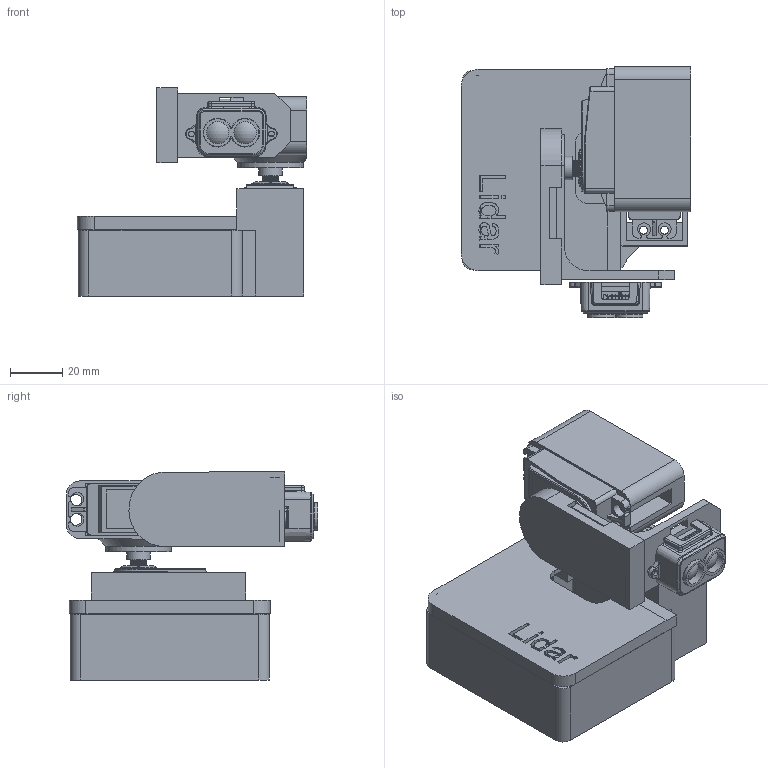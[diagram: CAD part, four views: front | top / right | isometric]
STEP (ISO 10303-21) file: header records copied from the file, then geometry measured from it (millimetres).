
FILE_DESCRIPTION(/* description */ (''),/* implementation_level */ '2;1');
FILE_NAME(/* name */ 'Lidar servo.step',/* time_stamp */ '2026-09-26T07:37:36-03:00',/* author */ (''),/* organization */ (''),/* preprocessor_version */ 'ST-DEVELOPER v20.1',/* originating_system */ 'Autodesk Translation Framework v15.8.0.0',/* authorisation */ '');
FILE_SCHEMA (('AUTOMOTIVE_DESIGN { 1 0 10303 214 3 1 1 }'));
Products named in the file (20): Lidar servo; servo; CAD_TD-8120mg_Tiankongrc_DigitalServo; tfluna; AssemBeneWake TF-LUNA.f3d ; BeneWake TF-LUNA; pan_head_phillip_mc_screw_m1; pan_head_phillip_mc_screw_m1_1; pan_head_phillip_mc_screw_m1_2; JST - GH - SMD (R) - 6Pin - 1.25mm; servo_1; CAD_TD-8120mg_Tiankongrc_DigitalServo_1; acople servo; acople servo (1); paleta; carcasa; PCB; tapa; acople cable; protector servo 1
Assembly tree (19 placements, depth 4):
  Lidar servo
    servo
      CAD_TD-8120mg_Tiankongrc_DigitalServo
    tfluna
      AssemBeneWake TF-LUNA.f3d 
        BeneWake TF-LUNA
        pan_head_phillip_mc_screw_m1
        pan_head_phillip_mc_screw_m1_1
        pan_head_phillip_mc_screw_m1_2
        JST - GH - SMD (R) - 6Pin - 1.25mm
    servo_1
      CAD_TD-8120mg_Tiankongrc_DigitalServo_1
    acople servo
    acople servo (1)
    paleta
    carcasa
    PCB
    tapa
    acople cable
    protector servo 1
Bounding box: 87.54 x 95.77 x 79.37 mm (x, y, z)
Volume: 142190 mm3; surface area: 93901.6 mm2
Topology: 28 solids, 52 shells, 2217 faces, 5800 edges, 3715 vertices
Faces by surface type: plane 1023, cylinder 603, bspline 489, torus 50, cone 37, sphere 15
Full cylindrical faces by diameter (mm): 0.74 x45, 1 x54, 1.691 x1, 1.851 x1, 1.874 x1, 1.887 x1, 2 x39, 2.2 x2, 2.427 x10, 3 x14, 3.6 x8, 4.459 x1, 4.5 x1, 6 x2, 6.1 x2, 7.5 x2, 8.49 x2, 8.5 x2, 9 x2, 10.198 x1, 14.001 x2, 21 x3, 21.541 x1, 25 x1
Entity records: 367109 total; most frequent: CARTESIAN_POINT 314838, ORIENTED_EDGE 11582, DIRECTION 9181, EDGE_CURVE 5792, VERTEX_POINT 3715, LINE 3121, VECTOR 3121, AXIS2_PLACEMENT_3D 3030
